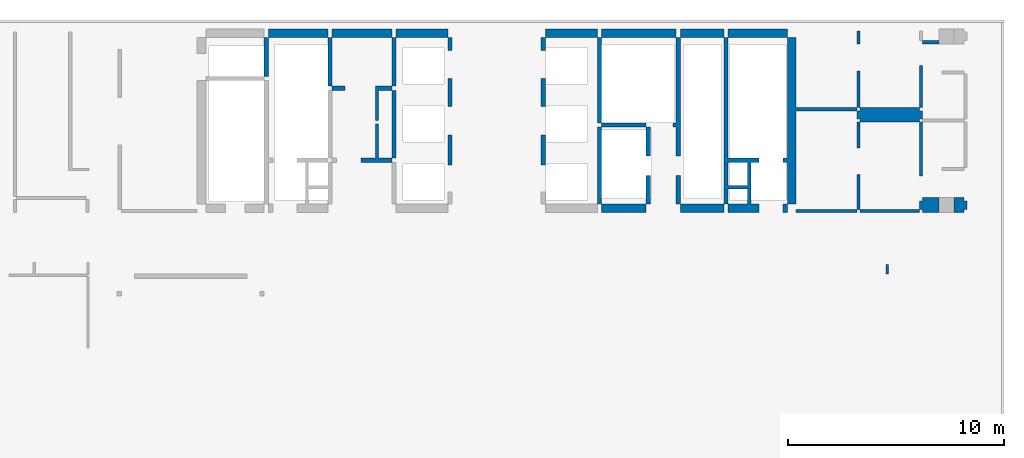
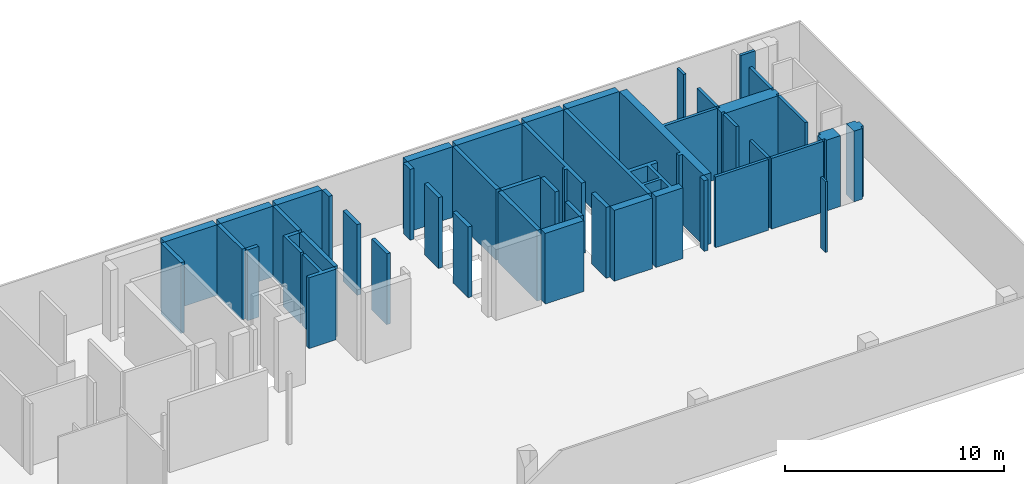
# One storey, part 2 of 4: 45 walls.
"""IFC4 building model written with IfcOpenShell, lengths in millimetres."""

import ifcopenshell
import ifcopenshell.guid

model = None  # the IFC model being written
_history = None  # IfcOwnerHistory: only IFC2X3 demands one
_inside = {}  # id of a spatial element -> (the spatial element, [elements in it])
_under = {}  # id of a project, library or spatial element -> (it, [spatial elements below it])
_declared = {}  # id of a project -> (the project, [libraries it declares])
_typed = {}  # id of a type object -> (the type object, [elements of that type])
_made_of = {}  # id of a material, layer set ... -> (it, [elements and type objects made of it])


def new_model(schema):
    """Start an empty IFC model of exactly this schema.

    Asked for "IFC4X3", IfcOpenShell would pick the latest addendum, in which some entities
    have other attributes; the version numbers below select the first issue.
    IFC2X3 requires an IfcOwnerHistory on every rooted entity: one is made here for all.
    """
    global model, _history
    if schema == "IFC4X3":
        model = ifcopenshell.file(schema_version=(4, 3, 0, 0))
    else:
        model = ifcopenshell.file(schema=schema)
    _inside.clear()
    _under.clear()
    _declared.clear()
    _typed.clear()
    _made_of.clear()
    _history = None
    if model.schema == "IFC2X3":
        org = make("IfcOrganization", Name="unknown")
        user = make(
            "IfcPersonAndOrganization",
            ThePerson=make("IfcPerson", FamilyName="unknown"),
            TheOrganization=org,
        )
        app = make(
            "IfcApplication",
            ApplicationDeveloper=org,
            Version="unknown",
            ApplicationFullName="unknown",
            ApplicationIdentifier="unknown",
        )
        _history = make(
            "IfcOwnerHistory",
            OwningUser=user,
            OwningApplication=app,
            ChangeAction="ADDED",
            CreationDate=0,
        )
    return model


def make(cls, **values):
    """One entity of the class cls with the attributes given. An attribute that is None is left unset."""
    return model.create_entity(
        cls, **{name: value for name, value in values.items() if value is not None}
    )


def rooted(cls, **values):
    """An entity with a GlobalId (a new one), such as an element, a storey or a relation."""
    return make(cls, GlobalId=ifcopenshell.guid.new(), OwnerHistory=_history, **values)


def si_unit(unit_type, name, prefix=None):
    """IfcSIUnit, for example si_unit("LENGTHUNIT", "METRE", prefix="MILLI")."""
    return make("IfcSIUnit", UnitType=unit_type, Prefix=prefix, Name=name)


def assignment(units):
    """IfcUnitAssignment: the units of a project."""
    return None if units is None else make("IfcUnitAssignment", Units=units)


def point(xyz):
    """IfcCartesianPoint."""
    return None if xyz is None else make("IfcCartesianPoint", Coordinates=xyz)


def direction(xyz):
    """IfcDirection."""
    return None if xyz is None else make("IfcDirection", DirectionRatios=xyz)


def frame(location, z_axis=None, x_axis=None):
    """IfcAxis2Placement3D, a coordinate frame: its origin and axes. An axis left out is left unset."""
    return make(
        "IfcAxis2Placement3D",
        Location=point(location),
        Axis=direction(z_axis),
        RefDirection=direction(x_axis),
    )


def origin():
    """The frame at (0, 0, 0) with its axes left unset."""
    return frame((0.0, 0.0, 0.0))


def place(relative_to, where):
    """IfcLocalPlacement: puts the frame where relative to a parent placement (None: the world)."""
    return make(
        "IfcLocalPlacement", PlacementRelTo=relative_to, RelativePlacement=where
    )


def context(
    kind, dimensions, precision=None, world=None, true_north=None, identifier=None
):
    """IfcGeometricRepresentationContext, for example the 3D "Model" context."""
    return make(
        "IfcGeometricRepresentationContext",
        ContextIdentifier=identifier,
        ContextType=kind,
        CoordinateSpaceDimension=dimensions,
        Precision=precision,
        WorldCoordinateSystem=world,
        TrueNorth=true_north,
    )


def project(units=None, contexts=None):
    """IfcProject with its units and contexts."""
    return rooted(
        "IfcProject",
        Name="project",
        RepresentationContexts=contexts,
        UnitsInContext=assignment(units),
    )


def spatial(cls, under=None, at=None, **own):
    """A site, building, storey or space (cls), placed at a placement, below another one or the project."""
    s = rooted(cls, ObjectPlacement=at, **own)
    if under is not None:
        _under.setdefault(under.id(), (under, []))[1].append(s)
    return s


def point_list(points):
    """IfcCartesianPointList2D or 3D."""
    cls = (
        "IfcCartesianPointList2D" if len(points[0]) == 2 else "IfcCartesianPointList3D"
    )
    return make(cls, CoordList=points)


def triangles(points, corners, closed=None, point_numbers=None):
    """IfcTriangulatedFaceSet: each triangle names its three corners, points numbered from 1."""
    return make(
        "IfcTriangulatedFaceSet",
        Coordinates=point_list(points),
        Closed=closed,
        CoordIndex=corners,
        PnIndex=point_numbers,
    )


def shape(context_of_items, identifier, shape_type, items):
    """IfcShapeRepresentation: the items that make up one representation, for example the "Body"."""
    return make(
        "IfcShapeRepresentation",
        ContextOfItems=context_of_items,
        RepresentationIdentifier=identifier,
        RepresentationType=shape_type,
        Items=items,
    )


def made_of(thing, what):
    """Note that an element or type object is made of a material, layer set ...; save() writes the relation."""
    if what is not None:
        _made_of.setdefault(what.id(), (what, []))[1].append(thing)
    return thing


def element(
    cls,
    number,
    at=None,
    inside=None,
    cuts=None,
    type_object=None,
    material=None,
    context=None,
    identifier="Body",
    shape_type=None,
    held_by="IfcProductDefinitionShape",
    body=None,
    shapes=None,
    **own,
):
    """One element of the class cls, such as IfcWall. Its Tag is "e" and its number.

    at: its placement. inside: the storey or other place that contains it. cuts: it is an
    opening in that element (IfcRelVoidsElement). A single representation is given by context,
    identifier, shape_type and body (its items); several are given by shapes. held_by: the class
    of the entity that holds the representations. save() writes the other relations.
    """
    e = rooted(cls, Tag="e%d" % number, ObjectPlacement=at, **own)
    if body is not None:
        shapes = [shape(context, identifier, shape_type, body)]
    if shapes is not None:
        e.Representation = make(held_by, Representations=shapes)
    if inside is not None:
        _inside.setdefault(inside.id(), (inside, []))[1].append(e)
    if cuts is not None:
        rooted(
            "IfcRelVoidsElement", RelatingBuildingElement=cuts, RelatedOpeningElement=e
        )
    if type_object is not None:
        _typed.setdefault(type_object.id(), (type_object, []))[1].append(e)
    return made_of(e, material)


def aggregate(whole, parts):
    """IfcRelAggregates: a whole, such as a stair, and the parts it consists of."""
    return rooted("IfcRelAggregates", RelatingObject=whole, RelatedObjects=parts)


def save(model, path):
    """Write the relations noted so far, then the file.

    IfcRelAggregates (storeys below a building ...), IfcRelContainedInSpatialStructure (elements
    in a storey), IfcRelDefinesByType, IfcRelAssociatesMaterial and IfcRelDeclares: one each for
    every whole, place, type object, material and project.
    """
    for whole, parts in _under.values():
        aggregate(whole, parts)
    for where, things in _inside.values():
        rooted(
            "IfcRelContainedInSpatialStructure",
            RelatedElements=things,
            RelatingStructure=where,
        )
    for kind, things in _typed.values():
        rooted("IfcRelDefinesByType", RelatedObjects=things, RelatingType=kind)
    for what, things in _made_of.values():
        rooted("IfcRelAssociatesMaterial", RelatedObjects=things, RelatingMaterial=what)
    for by, libraries in _declared.values():
        rooted("IfcRelDeclares", RelatingContext=by, RelatedDefinitions=libraries)
    model.write(path)


model = new_model("IFC4")

# Units and contexts
model_context = context("Model", 3, precision=0.001, world=origin())
ifc_project = project(units=[si_unit("LENGTHUNIT", "METRE", prefix="MILLI"), si_unit("AREAUNIT", "SQUARE_METRE"), si_unit("VOLUMEUNIT", "CUBIC_METRE")], contexts=[model_context])

# Site, building, storey
site_placement = place(None, origin())
site = spatial("IfcSite", under=ifc_project, at=site_placement, Name="Site", CompositionType="ELEMENT")
building_placement = place(site_placement, origin())
building = spatial("IfcBuilding", under=site, at=building_placement, Name="INNOCEAN", CompositionType="ELEMENT")
storey_placement = place(building_placement, frame((0.0, 0.0, 59600.0)))
storey = spatial("IfcBuildingStorey", under=building, at=storey_placement, Name="F14", CompositionType="ELEMENT", Elevation=59600.0)

# Walls
wall_1_placement = place(storey_placement, origin())
element("IfcWall", 1, at=wall_1_placement, inside=storey, Name="F14_Walls_F14_022", context=model_context, shape_type="Tessellation", body=[
    triangles([(16226.2, 25025.8, 0.0), (16226.2, 23222.2, 0.0), (16226.2, 23222.2, 3950.0), (16226.2, 25025.8, 3950.0), (16429.3, 25025.8, 0.0), (16429.3, 25025.8, 3950.0), (16429.3, 23222.2, 0.0), (16429.3, 23222.2, 3950.0)], [[1, 2, 3], [1, 3, 4], [5, 1, 4], [5, 4, 6], [7, 5, 6], [7, 6, 8], [2, 7, 8], [2, 8, 3], [1, 5, 7], [1, 7, 2], [6, 4, 8], [8, 4, 3]], closed=True),
])
wall_2_placement = place(storey_placement, origin())
element("IfcWall", 2, at=wall_2_placement, inside=storey, Name="F14_Walls_F14_025", context=model_context, shape_type="Tessellation", body=[
    triangles([(19183.7, 25025.8, 0.0), (19183.7, 25419.5, 0.0), (19183.7, 25419.5, 3950.0), (19183.7, 25025.8, 3950.0), (16429.3, 25025.8, 0.0), (16429.3, 25025.8, 3950.0), (16429.3, 25419.5, 0.0), (16429.3, 25419.5, 3950.0)], [[1, 2, 3], [1, 3, 4], [5, 1, 4], [5, 4, 6], [7, 5, 6], [7, 6, 8], [2, 7, 8], [2, 8, 3], [7, 2, 1], [7, 1, 5], [3, 8, 4], [4, 8, 6]], closed=True),
])
wall_3_placement = place(storey_placement, origin())
element("IfcWall", 3, at=wall_3_placement, inside=storey, Name="F14_Walls_F14_031", context=model_context, shape_type="Tessellation", body=[
    triangles([(31826.2, 20872.5, 0.0), (31826.2, 20872.5, 3950.0), (31826.2, 17316.1, 3950.0), (31826.2, 17316.1, 0.0), (31623.1, 17316.1, 3950.0), (31623.1, 17316.1, 0.0), (31623.1, 20872.5, 3950.0), (31623.1, 20872.5, 0.0)], [[1, 2, 3], [4, 1, 3], [4, 3, 5], [6, 4, 5], [6, 5, 7], [8, 6, 7], [8, 7, 2], [1, 8, 2], [8, 1, 4], [8, 4, 6], [2, 7, 3], [3, 7, 5]], closed=True),
])
wall_4_placement = place(storey_placement, origin())
element("IfcWall", 4, at=wall_4_placement, inside=storey, Name="F14_Walls_F14_033", context=model_context, shape_type="Tessellation", body=[
    triangles([(21366.9, 21024.9, 0.0), (21366.9, 19449.9, 0.0), (21366.9, 19449.9, 3950.0), (21366.9, 21024.9, 3950.0), (21519.3, 21024.9, 0.0), (21519.3, 21024.9, 3950.0), (21519.3, 19449.9, 0.0), (21519.3, 19449.9, 3950.0), (22128.5, 19449.9, 0.0), (22128.5, 19449.9, 3950.0), (22128.5, 19246.7, 0.0), (22128.5, 19246.7, 3950.0), (20694.2, 19246.7, 0.0), (20694.2, 19246.7, 3950.0), (20694.2, 19449.9, 0.0), (20694.2, 19449.9, 3950.0)], [[1, 2, 3], [1, 3, 4], [5, 1, 4], [5, 4, 6], [7, 5, 6], [7, 6, 8], [9, 7, 8], [9, 8, 10], [11, 9, 10], [11, 10, 12], [13, 11, 12], [13, 12, 14], [15, 13, 14], [15, 14, 16], [2, 15, 16], [2, 16, 3], [7, 9, 11], [2, 7, 11], [13, 2, 11], [15, 2, 13], [1, 5, 7], [1, 7, 2], [10, 8, 12], [8, 3, 12], [3, 14, 12], [3, 16, 14], [6, 4, 8], [8, 4, 3]], closed=True),
])
wall_5_placement = place(storey_placement, origin())
element("IfcWall", 5, at=wall_5_placement, inside=storey, Name="F14_Walls_F14_034", context=model_context, shape_type="Tessellation", body=[
    triangles([(24921.0, 19119.7, 0.0), (24921.0, 20516.8, 0.0), (24921.0, 20516.8, 3950.0), (24921.0, 19119.7, 3950.0), (24730.6, 19119.7, 0.0), (24730.6, 19119.7, 3950.0), (24730.6, 19120.0, 0.0), (24730.6, 19120.0, 3950.0), (24730.0, 19120.0, 0.0), (24730.0, 19120.0, 3950.0), (24730.0, 20515.0, 0.0), (24730.0, 20515.0, 3950.0), (24730.6, 20515.0, 0.0), (24730.6, 20515.0, 3950.0), (24730.6, 20516.8, 3950.0), (24730.6, 20516.8, 0.0)], [[1, 2, 3], [1, 3, 4], [5, 1, 4], [5, 4, 6], [7, 5, 6], [7, 6, 8], [9, 7, 8], [9, 8, 10], [11, 9, 10], [11, 10, 12], [13, 11, 12], [13, 12, 14], [13, 14, 15], [16, 13, 15], [2, 16, 15], [2, 15, 3], [7, 1, 5], [13, 2, 1], [13, 1, 7], [11, 7, 9], [11, 13, 7], [16, 2, 13], [4, 8, 6], [3, 14, 4], [4, 14, 8], [8, 12, 10], [14, 12, 8], [3, 15, 14]], closed=True),
])
wall_6_placement = place(storey_placement, origin())
element("IfcWall", 6, at=wall_6_placement, inside=storey, Name="F14_Walls_F14_035", context=model_context, shape_type="Tessellation", body=[
    triangles([(29224.0, 20516.8, 0.0), (29224.0, 20516.8, 3950.0), (29224.0, 20515.0, 3950.0), (29224.0, 20515.0, 0.0), (29225.0, 20515.0, 0.0), (29225.0, 20515.0, 3950.0), (29225.0, 19120.0, 0.0), (29225.0, 19120.0, 3950.0), (29224.0, 19120.0, 0.0), (29224.0, 19120.0, 3950.0), (29224.0, 19119.7, 0.0), (29224.0, 19119.7, 3950.0), (29020.9, 19119.7, 0.0), (29020.9, 19119.7, 3950.0), (29020.9, 19120.0, 0.0), (29020.9, 19120.0, 3950.0), (29020.0, 19120.0, 0.0), (29020.0, 19120.0, 3950.0), (29020.0, 20515.0, 0.0), (29020.0, 20515.0, 3950.0), (29020.9, 20515.0, 0.0), (29020.9, 20515.0, 3950.0), (29020.9, 20516.8, 3950.0), (29020.9, 20516.8, 0.0)], [[1, 2, 3], [4, 1, 3], [5, 4, 3], [5, 3, 6], [7, 5, 6], [7, 6, 8], [9, 7, 8], [9, 8, 10], [11, 9, 10], [11, 10, 12], [13, 11, 12], [13, 12, 14], [15, 13, 14], [15, 14, 16], [17, 15, 16], [17, 16, 18], [19, 17, 18], [19, 18, 20], [21, 19, 20], [21, 20, 22], [21, 22, 23], [24, 21, 23], [1, 24, 23], [1, 23, 2], [15, 9, 11], [15, 11, 13], [4, 5, 7], [4, 7, 9], [4, 9, 15], [21, 4, 15], [19, 15, 17], [19, 21, 15], [24, 1, 4], [24, 4, 21], [10, 16, 12], [12, 16, 14], [6, 3, 8], [8, 3, 10], [10, 3, 16], [3, 22, 16], [16, 20, 18], [22, 20, 16], [2, 23, 3], [3, 23, 22]], closed=True),
])
wall_7_placement = place(storey_placement, origin())
element("IfcWall", 7, at=wall_7_placement, inside=storey, Name="F14_Walls_F14_037", context=model_context, shape_type="Tessellation", body=[
    triangles([(22331.6, 19449.9, 0.0), (22331.6, 22574.4, 0.0), (22331.6, 22574.4, 3950.0), (22331.6, 19449.9, 3950.0), (22128.5, 19449.9, 0.0), (22128.5, 19449.9, 3950.0), (22128.5, 22574.4, 0.0), (22128.5, 22574.4, 3950.0)], [[1, 2, 3], [1, 3, 4], [5, 1, 4], [5, 4, 6], [7, 5, 6], [7, 6, 8], [2, 7, 8], [2, 8, 3], [2, 1, 5], [7, 2, 5], [4, 3, 6], [3, 8, 6]], closed=True),
])
wall_8_placement = place(storey_placement, origin())
element("IfcWall", 8, at=wall_8_placement, inside=storey, Name="F14_Walls_F14_038", context=model_context, shape_type="Tessellation", body=[
    triangles([(22128.5, 22765.0, 0.0), (21366.9, 22765.0, 0.0), (21366.9, 22765.0, 3950.0), (22128.5, 22765.0, 3950.0), (22128.5, 22574.4, 3950.0), (22128.5, 22574.4, 0.0), (21519.3, 22574.4, 0.0), (21519.3, 22574.4, 3950.0), (21519.3, 21177.3, 0.0), (21519.3, 21177.3, 3950.0), (21366.9, 21177.3, 0.0), (21366.9, 21177.3, 3950.0), (21366.9, 22574.4, 0.0), (21366.9, 22574.4, 3950.0)], [[1, 2, 3], [1, 3, 4], [1, 4, 5], [6, 1, 5], [7, 6, 5], [7, 5, 8], [9, 7, 8], [9, 8, 10], [11, 9, 10], [11, 10, 12], [13, 11, 12], [13, 12, 14], [13, 14, 3], [2, 13, 3], [7, 1, 6], [13, 7, 9], [13, 9, 11], [2, 1, 7], [2, 7, 13], [4, 8, 5], [8, 14, 10], [10, 14, 12], [4, 3, 8], [8, 3, 14]], closed=True),
])
wall_9_placement = place(storey_placement, origin())
element("IfcWall", 9, at=wall_9_placement, inside=storey, Name="F14_Walls_F14_039", context=model_context, shape_type="Tessellation", body=[
    triangles([(24730.6, 23120.6, 0.0), (24730.6, 23120.0, 0.0), (24730.6, 23120.0, 3950.0), (24730.6, 23120.6, 3950.0), (24921.0, 23120.6, 0.0), (24921.0, 23120.6, 3950.0), (24921.0, 21825.1, 0.0), (24921.0, 21825.1, 3950.0), (24920.0, 21825.1, 0.0), (24920.0, 21825.1, 3950.0), (24920.0, 21825.0, 0.0), (24920.0, 21825.0, 3950.0), (24730.0, 21825.0, 0.0), (24730.0, 21825.0, 3950.0), (24730.0, 23120.0, 3950.0), (24730.0, 23120.0, 0.0)], [[1, 2, 3], [1, 3, 4], [5, 1, 4], [5, 4, 6], [7, 5, 6], [7, 6, 8], [9, 7, 8], [9, 8, 10], [11, 9, 10], [11, 10, 12], [13, 11, 12], [13, 12, 14], [13, 14, 15], [16, 13, 15], [2, 16, 15], [2, 15, 3], [13, 9, 11], [5, 7, 9], [2, 5, 9], [2, 9, 13], [1, 5, 2], [16, 2, 13], [10, 14, 12], [8, 6, 10], [6, 3, 10], [10, 3, 14], [6, 4, 3], [3, 15, 14]], closed=True),
])
wall_10_placement = place(storey_placement, origin())
element("IfcWall", 10, at=wall_10_placement, inside=storey, Name="F14_Walls_F14_040", context=model_context, shape_type="Tessellation", body=[
    triangles([(29020.9, 23120.6, 0.0), (29020.9, 23120.0, 0.0), (29020.9, 23120.0, 3950.0), (29020.9, 23120.6, 3950.0), (29224.0, 23120.6, 0.0), (29224.0, 23120.6, 3950.0), (29224.0, 23120.0, 0.0), (29224.0, 23120.0, 3950.0), (29225.0, 23120.0, 0.0), (29225.0, 23120.0, 3950.0), (29225.0, 21825.0, 3950.0), (29225.0, 21825.0, 0.0), (29020.0, 21825.0, 0.0), (29020.0, 21825.0, 3950.0), (29020.0, 23120.0, 3950.0), (29020.0, 23120.0, 0.0)], [[1, 2, 3], [1, 3, 4], [5, 1, 4], [5, 4, 6], [7, 5, 6], [7, 6, 8], [9, 7, 8], [9, 8, 10], [9, 10, 11], [12, 9, 11], [13, 12, 11], [13, 11, 14], [13, 14, 15], [16, 13, 15], [2, 16, 15], [2, 15, 3], [7, 9, 12], [7, 12, 13], [2, 7, 13], [1, 5, 7], [1, 7, 2], [16, 2, 13], [10, 8, 11], [11, 8, 14], [8, 3, 14], [6, 4, 8], [8, 4, 3], [3, 15, 14]], closed=True),
])
wall_11_placement = place(storey_placement, origin())
element("IfcWall", 11, at=wall_11_placement, inside=storey, Name="F14_Walls_F14_041", context=model_context, shape_type="Tessellation", body=[
    triangles([(19970.7, 22765.0, 0.0), (19970.7, 22765.0, 3950.0), (19970.7, 22574.4, 3950.0), (19970.7, 22574.4, 0.0), (19374.1, 22574.4, 0.0), (19374.1, 22574.4, 3950.0), (19374.1, 22765.0, 3950.0), (19374.1, 22765.0, 0.0)], [[1, 2, 3], [4, 1, 3], [5, 4, 3], [5, 3, 6], [5, 6, 7], [8, 5, 7], [1, 8, 7], [1, 7, 2], [8, 1, 4], [8, 4, 5], [2, 7, 3], [3, 7, 6]], closed=True),
])
wall_12_placement = place(storey_placement, origin())
element("IfcWall", 12, at=wall_12_placement, inside=storey, Name="F14_Walls_F14_042", context=model_context, shape_type="Tessellation", body=[
    triangles([(19374.1, 22765.0, 0.0), (19374.1, 25025.8, 0.0), (19374.1, 25025.8, 3950.0), (19374.1, 22765.0, 3950.0), (19183.7, 22765.0, 0.0), (19183.7, 22765.0, 3950.0), (19183.7, 25025.8, 0.0), (19183.7, 25025.8, 3950.0)], [[1, 2, 3], [1, 3, 4], [5, 1, 4], [5, 4, 6], [7, 5, 6], [7, 6, 8], [2, 7, 8], [2, 8, 3], [7, 2, 1], [7, 1, 5], [3, 8, 4], [4, 8, 6]], closed=True),
])
wall_13_placement = place(storey_placement, origin())
element("IfcWall", 13, at=wall_13_placement, inside=storey, Name="F14_Walls_F14_043", context=model_context, shape_type="Tessellation", body=[
    triangles([(22331.6, 22765.0, 0.0), (22331.6, 25025.8, 0.0), (22331.6, 25025.8, 3950.0), (22331.6, 22765.0, 3950.0), (22128.5, 22765.0, 0.0), (22128.5, 22765.0, 3950.0), (22128.5, 25025.8, 0.0), (22128.5, 25025.8, 3950.0)], [[1, 2, 3], [1, 3, 4], [5, 1, 4], [5, 4, 6], [7, 5, 6], [7, 6, 8], [2, 7, 8], [2, 8, 3], [7, 2, 1], [7, 1, 5], [3, 8, 4], [4, 8, 6]], closed=True),
])
wall_14_placement = place(storey_placement, origin())
element("IfcWall", 14, at=wall_14_placement, inside=storey, Name="F14_Walls_F14_044", context=model_context, shape_type="Tessellation", body=[
    triangles([(24921.0, 24416.1, 0.0), (24921.0, 25025.8, 0.0), (24921.0, 25025.8, 3950.0), (24921.0, 24416.1, 3950.0), (24730.6, 24416.1, 0.0), (24730.6, 24416.1, 3950.0), (24730.6, 25025.8, 0.0), (24730.6, 25025.8, 3950.0)], [[1, 2, 3], [1, 3, 4], [5, 1, 4], [5, 4, 6], [7, 5, 6], [7, 6, 8], [2, 7, 8], [2, 8, 3], [7, 2, 1], [7, 1, 5], [3, 8, 4], [4, 8, 6]], closed=True),
])
wall_15_placement = place(storey_placement, origin())
element("IfcWall", 15, at=wall_15_placement, inside=storey, Name="F14_Walls_F14_045", context=model_context, shape_type="Tessellation", body=[
    triangles([(29020.9, 24416.1, 0.0), (29224.0, 24416.1, 0.0), (29224.0, 24416.1, 3950.0), (29020.9, 24416.1, 3950.0), (29020.9, 25025.8, 0.0), (29020.9, 25025.8, 3950.0), (29224.0, 25025.8, 0.0), (29224.0, 25025.8, 3950.0)], [[1, 2, 3], [1, 3, 4], [5, 1, 4], [5, 4, 6], [7, 5, 6], [7, 6, 8], [2, 7, 8], [2, 8, 3], [5, 2, 1], [5, 7, 2], [3, 6, 4], [8, 6, 3]], closed=True),
])
wall_16_placement = place(storey_placement, origin())
element("IfcWall", 16, at=wall_16_placement, inside=storey, Name="F14_Walls_F14_046", context=model_context, shape_type="Tessellation", body=[
    triangles([(19374.1, 25025.8, 0.0), (22128.5, 25025.8, 0.0), (22128.5, 25025.8, 3950.0), (19374.1, 25025.8, 3950.0), (19374.1, 25419.5, 0.0), (19374.1, 25419.5, 3950.0), (22128.5, 25419.5, 0.0), (22128.5, 25419.5, 3950.0)], [[1, 2, 3], [1, 3, 4], [5, 1, 4], [5, 4, 6], [7, 5, 6], [7, 6, 8], [2, 7, 8], [2, 8, 3], [5, 2, 1], [5, 7, 2], [3, 6, 4], [8, 6, 3]], closed=True),
])
wall_17_placement = place(storey_placement, origin())
element("IfcWall", 17, at=wall_17_placement, inside=storey, Name="F14_Walls_F14_047", context=model_context, shape_type="Tessellation", body=[
    triangles([(24730.6, 25025.8, 0.0), (24730.6, 25419.5, 0.0), (24730.6, 25419.5, 3950.0), (24730.6, 25025.8, 3950.0), (22331.6, 25025.8, 0.0), (22331.6, 25025.8, 3950.0), (22331.6, 25419.5, 0.0), (22331.6, 25419.5, 3950.0)], [[1, 2, 3], [1, 3, 4], [5, 1, 4], [5, 4, 6], [7, 5, 6], [7, 6, 8], [2, 7, 8], [2, 8, 3], [7, 2, 1], [7, 1, 5], [3, 8, 4], [4, 8, 6]], closed=True),
])
wall_18_placement = place(storey_placement, origin())
element("IfcWall", 18, at=wall_18_placement, inside=storey, Name="F14_Walls_F14_048", context=model_context, shape_type="Tessellation", body=[
    triangles([(31623.1, 25025.8, 0.0), (31623.1, 25419.5, 0.0), (31623.1, 25419.5, 3950.0), (31623.1, 25025.8, 3950.0), (29224.0, 25025.8, 0.0), (29224.0, 25025.8, 3950.0), (29224.0, 25419.5, 0.0), (29224.0, 25419.5, 3950.0)], [[1, 2, 3], [1, 3, 4], [5, 1, 4], [5, 4, 6], [7, 5, 6], [7, 6, 8], [2, 7, 8], [2, 8, 3], [7, 2, 1], [7, 1, 5], [3, 8, 4], [4, 8, 6]], closed=True),
])
wall_19_placement = place(storey_placement, origin())
element("IfcWall", 19, at=wall_19_placement, inside=storey, Name="F14_Walls_F14_049", context=model_context, shape_type="Tessellation", body=[
    triangles([(43618.2, 16922.4, 0.0), (43618.2, 17074.8, 0.0), (43618.2, 17074.8, 3950.0), (43618.2, 16922.4, 3950.0), (40813.0, 16922.4, 0.0), (40813.0, 16922.4, 3950.0), (40813.0, 17074.8, 0.0), (40813.0, 17074.8, 3950.0)], [[1, 2, 3], [1, 3, 4], [5, 1, 4], [5, 4, 6], [7, 5, 6], [7, 6, 8], [2, 7, 8], [2, 8, 3], [5, 2, 1], [7, 2, 5], [3, 6, 4], [3, 8, 6]], closed=True),
])
wall_20_placement = place(storey_placement, origin())
element("IfcWall", 20, at=wall_20_placement, inside=storey, Name="F14_Walls_F14_050", context=model_context, shape_type="Tessellation", body=[
    triangles([(37665.0, 16922.4, 0.0), (37665.0, 16922.4, 3950.0), (37665.0, 17316.1, 3950.0), (37665.0, 17316.1, 0.0), (39099.4, 16922.4, 0.0), (39099.4, 16922.4, 3950.0), (39099.4, 17316.1, 0.0), (39099.4, 17316.1, 3950.0), (38720.0, 17316.1, 0.0), (38720.0, 17316.1, 3950.0), (38720.0, 19245.0, 0.0), (38720.0, 19245.0, 3950.0), (39100.0, 19245.0, 0.0), (39100.0, 19245.0, 3950.0), (39100.0, 19450.0, 0.0), (39100.0, 19450.0, 3950.0), (37665.0, 19450.0, 0.0), (37665.0, 19450.0, 3950.0), (37665.0, 25025.8, 0.0), (37665.0, 25025.8, 3950.0), (37474.6, 25025.8, 0.0), (37474.6, 25025.8, 3950.0), (37474.6, 19449.9, 0.0), (37474.6, 19449.9, 3950.0), (37474.6, 17316.1, 0.0), (37474.6, 17316.1, 3950.0), (37665.0, 18014.7, 0.0), (37665.0, 18014.7, 3950.0), (38565.0, 18014.7, 0.0), (38565.0, 18014.7, 3950.0), (38565.0, 17316.1, 0.0), (38565.0, 17316.1, 3950.0), (38565.0, 19245.0, 0.0), (38565.0, 18167.1, 0.0), (38565.0, 18167.1, 3950.0), (38565.0, 19245.0, 3950.0), (37665.0, 18167.1, 0.0), (37665.0, 18167.1, 3950.0), (37665.0, 19245.0, 0.0), (37665.0, 19245.0, 3950.0)], [[1, 2, 3], [4, 1, 3], [1, 5, 6], [1, 6, 2], [7, 8, 6], [5, 7, 6], [7, 9, 10], [7, 10, 8], [9, 11, 12], [9, 12, 10], [13, 14, 12], [11, 13, 12], [13, 15, 16], [13, 16, 14], [15, 17, 18], [15, 18, 16], [17, 19, 20], [17, 20, 18], [19, 21, 22], [19, 22, 20], [21, 23, 24], [21, 24, 22], [23, 25, 26], [23, 26, 24], [25, 4, 3], [25, 3, 26], [4, 27, 28], [4, 28, 3], [27, 29, 30], [27, 30, 28], [29, 31, 32], [29, 32, 30], [31, 4, 3], [31, 3, 32], [33, 34, 35], [33, 35, 36], [34, 37, 38], [34, 38, 35], [37, 39, 40], [37, 40, 38], [39, 33, 36], [39, 36, 40], [9, 7, 5], [31, 9, 5], [1, 31, 5], [29, 9, 31], [4, 31, 1], [27, 4, 25], [37, 29, 27], [37, 34, 29], [37, 27, 25], [11, 15, 13], [33, 11, 34], [33, 15, 11], [17, 33, 39], [17, 15, 33], [23, 39, 37], [23, 17, 39], [23, 37, 25], [21, 19, 17], [21, 17, 23], [11, 9, 29], [11, 29, 34], [8, 10, 6], [10, 32, 6], [32, 2, 6], [10, 30, 32], [32, 3, 2], [3, 28, 26], [30, 38, 28], [35, 38, 30], [28, 38, 26], [16, 12, 14], [12, 36, 35], [16, 36, 12], [36, 18, 40], [16, 18, 36], [40, 24, 38], [18, 24, 40], [38, 24, 26], [20, 22, 18], [18, 22, 24], [10, 12, 30], [30, 12, 35]], closed=True),
])
wall_21_placement = place(storey_placement, origin())
element("IfcWall", 21, at=wall_21_placement, inside=storey, Name="F14_Walls_F14_051", context=model_context, shape_type="Tessellation", body=[
    triangles([(33869.8, 17316.1, 0.0), (33869.8, 17316.1, 3950.0), (33869.8, 16922.4, 3950.0), (33869.8, 16922.4, 0.0), (31826.2, 16922.4, 0.0), (31826.2, 16922.4, 3950.0), (31826.2, 17316.1, 3950.0), (31826.2, 17316.1, 0.0)], [[1, 2, 3], [4, 1, 3], [5, 4, 3], [5, 3, 6], [5, 6, 7], [8, 5, 7], [1, 8, 7], [1, 7, 2], [8, 1, 4], [8, 4, 5], [2, 7, 3], [3, 7, 6]], closed=True),
])
wall_22_placement = place(storey_placement, origin())
element("IfcWall", 22, at=wall_22_placement, inside=storey, Name="F14_Walls_F14_052", context=model_context, shape_type="Tessellation", body=[
    triangles([(40419.5, 17316.1, 0.0), (40419.5, 17316.1, 3950.0), (40419.5, 16922.4, 3950.0), (40419.5, 16922.4, 0.0), (40216.4, 16922.4, 0.0), (40216.4, 16922.4, 3950.0), (40216.4, 17316.1, 3950.0), (40216.4, 17316.1, 0.0)], [[1, 2, 3], [4, 1, 3], [5, 4, 3], [5, 3, 6], [5, 6, 7], [8, 5, 7], [1, 8, 7], [1, 7, 2], [8, 1, 4], [8, 4, 5], [2, 7, 3], [3, 7, 6]], closed=True),
])
wall_23_placement = place(storey_placement, origin())
element("IfcWall", 23, at=wall_23_placement, inside=storey, Name="F14_Walls_F14_053", context=model_context, shape_type="Tessellation", body=[
    triangles([(37474.6, 17316.1, 0.0), (37474.6, 17316.1, 3950.0), (37474.6, 16922.4, 3950.0), (37474.6, 16922.4, 0.0), (35469.1, 16922.4, 0.0), (35469.1, 16922.4, 3950.0), (35469.1, 17316.1, 3950.0), (35469.1, 17316.1, 0.0)], [[1, 2, 3], [4, 1, 3], [5, 4, 3], [5, 3, 6], [5, 6, 7], [8, 5, 7], [1, 8, 7], [1, 7, 2], [8, 1, 4], [8, 4, 5], [2, 7, 3], [3, 7, 6]], closed=True),
])
wall_24_placement = place(storey_placement, origin())
element("IfcWall", 24, at=wall_24_placement, inside=storey, Name="F14_Walls_F14_054", context=model_context, shape_type="Tessellation", body=[
    triangles([(34072.9, 17316.1, 0.0), (34072.9, 18649.7, 0.0), (34072.9, 18649.7, 3950.0), (34072.9, 17316.1, 3950.0), (33869.8, 17316.1, 0.0), (33869.8, 17316.1, 3950.0), (33869.8, 18649.7, 0.0), (33869.8, 18649.7, 3950.0)], [[1, 2, 3], [1, 3, 4], [5, 1, 4], [5, 4, 6], [7, 5, 6], [7, 6, 8], [2, 7, 8], [2, 8, 3], [7, 2, 1], [7, 1, 5], [3, 8, 4], [4, 8, 6]], closed=True),
])
wall_25_placement = place(storey_placement, origin())
element("IfcWall", 25, at=wall_25_placement, inside=storey, Name="F14_Walls_F14_055", context=model_context, shape_type="Tessellation", body=[
    triangles([(35469.1, 17316.1, 0.0), (35469.1, 18649.7, 0.0), (35469.1, 18649.7, 3950.0), (35469.1, 17316.1, 3950.0), (35266.0, 17316.1, 0.0), (35266.0, 17316.1, 3950.0), (35266.0, 18649.7, 0.0), (35266.0, 18649.7, 3950.0)], [[1, 2, 3], [1, 3, 4], [5, 1, 4], [5, 4, 6], [7, 5, 6], [7, 6, 8], [2, 7, 8], [2, 8, 3], [7, 2, 1], [7, 1, 5], [3, 8, 4], [4, 8, 6]], closed=True),
])
wall_26_placement = place(storey_placement, origin())
element("IfcWall", 26, at=wall_26_placement, inside=storey, Name="F14_Walls_F14_056", context=model_context, shape_type="Tessellation", body=[
    triangles([(40419.5, 25025.8, 0.0), (40419.5, 19450.0, 0.0), (40419.5, 19450.0, 3950.0), (40419.5, 25025.8, 3950.0), (40813.0, 25025.8, 0.0), (40813.0, 25025.8, 3950.0), (40813.0, 21774.3, 0.0), (40813.0, 21774.3, 3950.0), (43618.2, 21774.3, 0.0), (43618.2, 21774.3, 3950.0), (43618.2, 21621.8, 0.0), (43618.2, 21621.8, 3950.0), (40813.0, 21621.8, 0.0), (40813.0, 21621.8, 3950.0), (40813.0, 19449.9, 0.0), (40813.0, 19449.9, 3950.0), (40813.0, 17316.1, 0.0), (40813.0, 17316.1, 3950.0), (40419.5, 17316.1, 0.0), (40419.5, 17316.1, 3950.0), (40419.5, 19245.0, 0.0), (40419.5, 19245.0, 3950.0), (40215.0, 19245.0, 3950.0), (40215.0, 19245.0, 0.0), (40215.0, 19450.0, 0.0), (40215.0, 19450.0, 3950.0)], [[1, 2, 3], [1, 3, 4], [5, 1, 4], [5, 4, 6], [7, 5, 6], [7, 6, 8], [9, 7, 8], [9, 8, 10], [11, 9, 10], [11, 10, 12], [13, 11, 12], [13, 12, 14], [15, 13, 14], [15, 14, 16], [17, 15, 16], [17, 16, 18], [19, 17, 18], [19, 18, 20], [21, 19, 20], [21, 20, 22], [21, 22, 23], [24, 21, 23], [25, 24, 23], [25, 23, 26], [25, 26, 3], [2, 25, 3], [21, 15, 17], [21, 17, 19], [2, 21, 24], [2, 15, 21], [25, 2, 24], [13, 15, 2], [7, 9, 11], [7, 11, 13], [1, 5, 7], [2, 1, 7], [2, 7, 13], [16, 22, 18], [18, 22, 20], [22, 3, 23], [16, 3, 22], [3, 26, 23], [16, 14, 3], [10, 8, 12], [12, 8, 14], [6, 4, 8], [4, 3, 8], [8, 3, 14]], closed=True),
])
wall_27_placement = place(storey_placement, origin())
element("IfcWall", 27, at=wall_27_placement, inside=storey, Name="F14_Walls_F14_057", context=model_context, shape_type="Tessellation", body=[
    triangles([(34072.9, 19551.5, 0.0), (34072.9, 20872.5, 0.0), (34072.9, 20872.5, 3950.0), (34072.9, 19551.5, 3950.0), (33869.8, 19551.5, 0.0), (33869.8, 19551.5, 3950.0), (33869.8, 20872.5, 0.0), (33869.8, 20872.5, 3950.0)], [[1, 2, 3], [1, 3, 4], [5, 1, 4], [5, 4, 6], [7, 5, 6], [7, 6, 8], [2, 7, 8], [2, 8, 3], [7, 2, 1], [7, 1, 5], [3, 8, 4], [4, 8, 6]], closed=True),
])
wall_28_placement = place(storey_placement, origin())
element("IfcWall", 28, at=wall_28_placement, inside=storey, Name="F14_Walls_F14_058", context=model_context, shape_type="Tessellation", body=[
    triangles([(35126.4, 21075.7, 0.0), (35126.4, 20872.5, 0.0), (35126.4, 20872.5, 3950.0), (35126.4, 21075.7, 3950.0), (35266.0, 21075.7, 0.0), (35266.0, 21075.7, 3950.0), (35266.0, 25025.8, 3950.0), (35266.0, 25025.8, 0.0), (35469.1, 25025.8, 0.0), (35469.1, 25025.8, 3950.0), (35469.1, 21075.7, 3950.0), (35469.1, 21075.7, 0.0), (35469.1, 20872.5, 0.0), (35469.1, 20872.5, 3950.0), (35469.1, 19551.5, 0.0), (35469.1, 19551.5, 3950.0), (35266.0, 19551.5, 0.0), (35266.0, 19551.5, 3950.0), (35266.0, 20872.5, 0.0), (35266.0, 20872.5, 3950.0)], [[1, 2, 3], [1, 3, 4], [5, 1, 4], [5, 4, 6], [7, 5, 6], [8, 5, 7], [9, 8, 7], [9, 7, 10], [11, 9, 10], [12, 9, 11], [13, 12, 11], [13, 11, 14], [15, 13, 14], [15, 14, 16], [17, 15, 16], [17, 16, 18], [19, 17, 18], [19, 18, 20], [2, 19, 20], [2, 20, 3], [19, 13, 15], [19, 15, 17], [12, 13, 19], [5, 12, 19], [1, 19, 2], [1, 5, 19], [8, 9, 12], [8, 12, 5], [14, 20, 16], [16, 20, 18], [14, 11, 20], [11, 6, 20], [20, 4, 3], [6, 4, 20], [10, 7, 11], [11, 7, 6]], closed=True),
])
wall_29_placement = place(storey_placement, origin())
element("IfcWall", 29, at=wall_29_placement, inside=storey, Name="F14_Walls_F14_059", context=model_context, shape_type="Tessellation", body=[
    triangles([(43770.5, 19919.9, 0.0), (43770.5, 21101.1, 0.0), (43770.5, 21101.1, 3950.0), (43770.5, 19919.9, 3950.0), (43618.2, 19919.9, 0.0), (43618.2, 19919.9, 3950.0), (43618.2, 21101.1, 0.0), (43618.2, 21101.1, 3950.0)], [[1, 2, 3], [1, 3, 4], [5, 1, 4], [5, 4, 6], [7, 5, 6], [7, 6, 8], [2, 7, 8], [2, 8, 3], [7, 2, 1], [7, 1, 5], [3, 8, 4], [4, 8, 6]], closed=True),
])
wall_30_placement = place(storey_placement, origin())
element("IfcWall", 30, at=wall_30_placement, inside=storey, Name="F14_Walls_F14_060", context=model_context, shape_type="Tessellation", body=[
    triangles([(33869.8, 20872.5, 0.0), (33869.8, 21075.7, 0.0), (33869.8, 21075.7, 3950.0), (33869.8, 20872.5, 3950.0), (31826.2, 20872.5, 0.0), (31826.2, 20872.5, 3950.0), (31826.2, 21075.7, 0.0), (31826.2, 21075.7, 3950.0)], [[1, 2, 3], [1, 3, 4], [5, 1, 4], [5, 4, 6], [7, 5, 6], [7, 6, 8], [2, 7, 8], [2, 8, 3], [7, 2, 1], [7, 1, 5], [3, 8, 4], [4, 8, 6]], closed=True),
])
wall_31_placement = place(storey_placement, origin())
element("IfcWall", 31, at=wall_31_placement, inside=storey, Name="F14_Walls_F14_061", context=model_context, shape_type="Tessellation", body=[
    triangles([(43770.5, 21774.3, 0.0), (43770.5, 23476.2, 0.0), (43770.5, 23476.2, 3950.0), (43770.5, 21774.3, 3950.0), (43618.2, 21774.3, 0.0), (43618.2, 21774.3, 3950.0), (43618.2, 23476.2, 0.0), (43618.2, 23476.2, 3950.0)], [[1, 2, 3], [1, 3, 4], [5, 1, 4], [5, 4, 6], [7, 5, 6], [7, 6, 8], [2, 7, 8], [2, 8, 3], [7, 2, 1], [7, 1, 5], [3, 8, 4], [4, 8, 6]], closed=True),
])
wall_32_placement = place(storey_placement, origin())
element("IfcWall", 32, at=wall_32_placement, inside=storey, Name="F14_Walls_F14_062", context=model_context, shape_type="Tessellation", body=[
    triangles([(31826.2, 21075.7, 0.0), (31826.2, 21075.7, 3950.0), (31623.1, 21075.7, 3950.0), (31623.1, 21075.7, 0.0), (31623.1, 25025.8, 3950.0), (31623.1, 25025.8, 0.0), (31826.2, 25025.8, 3950.0), (31826.2, 25025.8, 0.0)], [[1, 2, 3], [4, 1, 3], [5, 4, 3], [6, 4, 5], [6, 5, 7], [8, 6, 7], [2, 8, 7], [1, 8, 2], [8, 1, 4], [6, 8, 4], [2, 7, 3], [7, 5, 3]], closed=True),
])
wall_33_placement = place(storey_placement, origin())
element("IfcWall", 33, at=wall_33_placement, inside=storey, Name="F14_Walls_F14_063", context=model_context, shape_type="Tessellation", body=[
    triangles([(43620.0, 25320.0, 0.0), (43620.0, 25320.0, 3950.0), (43770.0, 25320.0, 3950.0), (43770.0, 25320.0, 0.0), (43770.0, 25317.9, 0.0), (43770.0, 25317.9, 3950.0), (43770.5, 25317.9, 0.0), (43770.5, 25317.9, 3950.0), (43770.5, 24721.0, 0.0), (43770.5, 24721.0, 3950.0), (43770.0, 24721.0, 0.0), (43770.0, 24721.0, 3950.0), (43770.0, 24720.0, 0.0), (43770.0, 24720.0, 3950.0), (43620.0, 24720.0, 3950.0), (43620.0, 24720.0, 0.0), (43620.0, 24721.0, 0.0), (43620.0, 24721.0, 3950.0), (43618.2, 24721.0, 3950.0), (43618.2, 24721.0, 0.0), (43618.2, 25317.9, 0.0), (43618.2, 25317.9, 3950.0), (43620.0, 25317.9, 3950.0), (43620.0, 25317.9, 0.0)], [[1, 2, 3], [4, 1, 3], [5, 4, 3], [5, 3, 6], [7, 5, 6], [7, 6, 8], [9, 7, 8], [9, 8, 10], [11, 9, 10], [11, 10, 12], [13, 11, 12], [13, 12, 14], [13, 14, 15], [16, 13, 15], [17, 16, 15], [17, 15, 18], [17, 18, 19], [20, 17, 19], [21, 20, 19], [21, 19, 22], [21, 22, 23], [24, 21, 23], [1, 24, 23], [1, 23, 2], [17, 11, 13], [17, 13, 16], [7, 9, 11], [5, 7, 11], [5, 11, 17], [24, 5, 17], [21, 17, 20], [21, 24, 17], [1, 4, 5], [1, 5, 24], [12, 18, 14], [14, 18, 15], [10, 8, 12], [8, 6, 12], [12, 6, 18], [6, 23, 18], [18, 22, 19], [23, 22, 18], [3, 2, 6], [6, 2, 23]], closed=True),
])
wall_34_placement = place(storey_placement, origin())
element("IfcWall", 34, at=wall_34_placement, inside=storey, Name="F14_Walls_F14_064", context=model_context, shape_type="Tessellation", body=[
    triangles([(35266.0, 25025.8, 0.0), (35266.0, 25419.5, 0.0), (35266.0, 25419.5, 3950.0), (35266.0, 25025.8, 3950.0), (31826.2, 25025.8, 0.0), (31826.2, 25025.8, 3950.0), (31826.2, 25419.5, 0.0), (31826.2, 25419.5, 3950.0)], [[1, 2, 3], [1, 3, 4], [5, 1, 4], [5, 4, 6], [7, 5, 6], [7, 6, 8], [2, 7, 8], [2, 8, 3], [7, 2, 1], [7, 1, 5], [3, 8, 4], [4, 8, 6]], closed=True),
])
wall_35_placement = place(storey_placement, origin())
element("IfcWall", 35, at=wall_35_placement, inside=storey, Name="F14_Walls_F14_065", context=model_context, shape_type="Tessellation", body=[
    triangles([(37474.6, 25025.8, 0.0), (37474.6, 25419.5, 0.0), (37474.6, 25419.5, 3950.0), (37474.6, 25025.8, 3950.0), (35469.1, 25025.8, 0.0), (35469.1, 25025.8, 3950.0), (35469.1, 25419.5, 0.0), (35469.1, 25419.5, 3950.0)], [[1, 2, 3], [1, 3, 4], [5, 1, 4], [5, 4, 6], [7, 5, 6], [7, 6, 8], [2, 7, 8], [2, 8, 3], [7, 2, 1], [7, 1, 5], [3, 8, 4], [4, 8, 6]], closed=True),
])
wall_36_placement = place(storey_placement, origin())
element("IfcWall", 36, at=wall_36_placement, inside=storey, Name="F14_Walls_F14_066", context=model_context, shape_type="Tessellation", body=[
    triangles([(40419.5, 25025.8, 0.0), (40419.5, 25419.5, 0.0), (40419.5, 25419.5, 3950.0), (40419.5, 25025.8, 3950.0), (37665.0, 25025.8, 0.0), (37665.0, 25025.8, 3950.0), (37665.0, 25419.5, 0.0), (37665.0, 25419.5, 3950.0)], [[1, 2, 3], [1, 3, 4], [5, 1, 4], [5, 4, 6], [7, 5, 6], [7, 6, 8], [2, 7, 8], [2, 8, 3], [7, 2, 1], [7, 1, 5], [3, 8, 4], [4, 8, 6]], closed=True),
])
wall_37_placement = place(storey_placement, origin())
element("IfcWall", 37, at=wall_37_placement, inside=storey, Name="F14_Walls_F14_067", context=model_context, shape_type="Tessellation", body=[
    triangles([(45077.9, 14077.3, 0.0), (45077.9, 14521.8, 0.0), (45077.9, 14521.8, 3950.0), (45077.9, 14077.3, 3950.0), (44976.3, 14077.3, 0.0), (44976.3, 14077.3, 3950.0), (44976.3, 14521.8, 0.0), (44976.3, 14521.8, 3950.0)], [[1, 2, 3], [1, 3, 4], [5, 1, 4], [5, 4, 6], [7, 5, 6], [7, 6, 8], [2, 7, 8], [2, 8, 3], [7, 2, 1], [7, 1, 5], [3, 8, 4], [4, 8, 6]], closed=True),
])
wall_38_placement = place(storey_placement, origin())
element("IfcWall", 38, at=wall_38_placement, inside=storey, Name="F14_Walls_F14_068", context=model_context, shape_type="Tessellation", body=[
    triangles([(46512.2, 16922.4, 0.0), (46512.2, 17074.8, 0.0), (46512.2, 17074.8, 3950.0), (46512.2, 16922.4, 3950.0), (43770.5, 16922.4, 0.0), (43770.5, 16922.4, 3950.0), (43770.5, 17074.8, 0.0), (43770.5, 17074.8, 3950.0)], [[1, 2, 3], [1, 3, 4], [5, 1, 4], [5, 4, 6], [7, 5, 6], [7, 6, 8], [2, 7, 8], [2, 8, 3], [7, 2, 1], [7, 1, 5], [3, 8, 4], [4, 8, 6]], closed=True),
])
wall_39_placement = place(storey_placement, origin())
element("IfcWall", 39, at=wall_39_placement, inside=storey, Name="F14_Walls_F14_069", context=model_context, shape_type="Tessellation", body=[
    triangles([(46512.2, 17468.5, 0.0), (46512.2, 17074.8, 0.0), (46512.2, 17074.8, 3950.0), (46512.2, 17468.5, 3950.0), (46664.5, 17468.5, 0.0), (46664.5, 17468.5, 3950.0), (46664.5, 17620.9, 0.0), (46664.5, 17620.9, 3950.0), (47413.4, 17620.9, 0.0), (47413.4, 17620.9, 3950.0), (47413.4, 17468.5, 0.0), (47413.4, 17468.5, 3950.0), (47413.4, 17074.8, 0.0), (47413.4, 17074.8, 3950.0), (47413.4, 16922.4, 0.0), (47413.4, 16922.4, 3950.0), (46664.5, 16922.4, 0.0), (46664.5, 16922.4, 3950.0), (46664.5, 17074.8, 0.0), (46664.5, 17074.8, 3950.0)], [[1, 2, 3], [1, 3, 4], [5, 1, 4], [5, 4, 6], [7, 5, 6], [7, 6, 8], [9, 7, 8], [9, 8, 10], [11, 9, 10], [11, 10, 12], [13, 11, 12], [13, 12, 14], [15, 13, 14], [15, 14, 16], [17, 15, 16], [17, 16, 18], [19, 17, 18], [19, 18, 20], [2, 19, 20], [2, 20, 3], [17, 13, 15], [19, 13, 17], [5, 11, 13], [5, 19, 2], [5, 13, 19], [1, 5, 2], [7, 9, 11], [7, 11, 5], [14, 18, 16], [14, 20, 18], [12, 6, 14], [20, 6, 3], [14, 6, 20], [6, 4, 3], [10, 8, 12], [12, 8, 6]], closed=True),
])
wall_40_placement = place(storey_placement, origin())
element("IfcWall", 40, at=wall_40_placement, inside=storey, Name="F14_Walls_F14_070", context=model_context, shape_type="Tessellation", body=[
    triangles([(48111.6, 17620.9, 0.0), (48111.6, 17468.5, 0.0), (48111.6, 17468.5, 3950.0), (48111.6, 17620.9, 3950.0), (48568.5, 17620.9, 0.0), (48568.5, 17620.9, 3950.0), (48568.5, 17468.5, 0.0), (48568.5, 17468.5, 3950.0), (48708.1, 17468.5, 0.0), (48708.1, 17468.5, 3950.0), (48708.1, 17074.8, 0.0), (48708.1, 17074.8, 3950.0), (48568.5, 17074.8, 0.0), (48568.5, 17074.8, 3950.0), (48568.5, 16922.4, 0.0), (48568.5, 16922.4, 3950.0), (48111.6, 16922.4, 0.0), (48111.6, 16922.4, 3950.0), (48111.6, 17074.8, 0.0), (48111.6, 17074.8, 3950.0)], [[1, 2, 3], [1, 3, 4], [5, 1, 4], [5, 4, 6], [7, 5, 6], [7, 6, 8], [9, 7, 8], [9, 8, 10], [11, 9, 10], [11, 10, 12], [13, 11, 12], [13, 12, 14], [15, 13, 14], [15, 14, 16], [17, 15, 16], [17, 16, 18], [19, 17, 18], [19, 18, 20], [2, 19, 20], [2, 20, 3], [7, 9, 11], [7, 11, 13], [19, 13, 15], [19, 15, 17], [19, 7, 13], [2, 7, 19], [1, 5, 7], [1, 7, 2], [10, 8, 12], [12, 8, 14], [14, 20, 16], [16, 20, 18], [8, 20, 14], [8, 3, 20], [6, 4, 8], [8, 4, 3]], closed=True),
])
wall_41_placement = place(storey_placement, origin())
element("IfcWall", 41, at=wall_41_placement, inside=storey, Name="F14_Walls_F14_071", context=model_context, shape_type="Tessellation", body=[
    triangles([(43770.5, 17074.8, 0.0), (43770.5, 18675.1, 0.0), (43770.5, 18675.1, 3950.0), (43770.5, 17074.8, 3950.0), (43618.2, 17074.8, 0.0), (43618.2, 17074.8, 3950.0), (43618.2, 18675.1, 0.0), (43618.2, 18675.1, 3950.0)], [[1, 2, 3], [1, 3, 4], [5, 1, 4], [5, 4, 6], [7, 5, 6], [7, 6, 8], [2, 7, 8], [2, 8, 3], [2, 1, 5], [7, 2, 5], [4, 3, 6], [3, 8, 6]], closed=True),
])
wall_42_placement = place(storey_placement, origin())
element("IfcWall", 42, at=wall_42_placement, inside=storey, Name="F14_Walls_F14_073", context=model_context, shape_type="Tessellation", body=[
    triangles([(46512.2, 18624.3, 0.0), (46664.5, 18624.3, 0.0), (46664.5, 18624.3, 3950.0), (46512.2, 18624.3, 3950.0), (46512.2, 21101.1, 0.0), (46512.2, 21101.1, 3950.0), (46664.5, 21101.1, 0.0), (46664.5, 21101.1, 3950.0)], [[1, 2, 3], [1, 3, 4], [5, 1, 4], [5, 4, 6], [7, 5, 6], [7, 6, 8], [2, 7, 8], [2, 8, 3], [5, 2, 1], [5, 7, 2], [3, 6, 4], [8, 6, 3]], closed=True),
])
wall_43_placement = place(storey_placement, origin())
element("IfcWall", 43, at=wall_43_placement, inside=storey, Name="F14_Walls_F14_075", context=model_context, shape_type="Tessellation", body=[
    triangles([(43770.5, 21774.3, 0.0), (43770.5, 21621.8, 0.0), (43770.5, 21621.8, 3950.0), (43770.5, 21774.3, 3950.0), (46512.2, 21774.3, 0.0), (46512.2, 21774.3, 3950.0), (46512.2, 21621.8, 0.0), (46512.2, 21621.8, 3950.0), (46664.5, 21621.8, 0.0), (46664.5, 21621.8, 3950.0), (46664.5, 21240.8, 3950.0), (46664.5, 21240.8, 0.0), (46512.2, 21240.8, 0.0), (46512.2, 21240.8, 3950.0), (46512.2, 21101.1, 3950.0), (46512.2, 21101.1, 0.0), (43770.5, 21101.1, 0.0), (43770.5, 21101.1, 3950.0), (43770.5, 21240.0, 0.0), (43770.5, 21240.0, 3950.0), (43770.0, 21240.0, 0.0), (43770.0, 21240.0, 3950.0), (43770.0, 21240.8, 0.0), (43770.0, 21240.8, 3950.0), (43618.2, 21240.8, 3950.0), (43618.2, 21240.8, 0.0), (43618.2, 21621.8, 3950.0), (43618.2, 21621.8, 0.0)], [[1, 2, 3], [1, 3, 4], [5, 1, 4], [5, 4, 6], [7, 5, 6], [7, 6, 8], [9, 7, 8], [9, 8, 10], [9, 10, 11], [12, 9, 11], [13, 12, 11], [13, 11, 14], [13, 14, 15], [16, 13, 15], [17, 16, 15], [17, 15, 18], [19, 17, 18], [19, 18, 20], [21, 19, 20], [21, 20, 22], [23, 21, 22], [23, 22, 24], [23, 24, 25], [26, 23, 25], [26, 25, 27], [28, 26, 27], [2, 28, 27], [2, 27, 3], [9, 12, 13], [7, 9, 13], [19, 13, 16], [19, 16, 17], [23, 19, 21], [2, 7, 13], [2, 13, 19], [2, 19, 23], [28, 23, 26], [28, 2, 23], [1, 5, 7], [1, 7, 2], [11, 10, 14], [10, 8, 14], [14, 20, 15], [15, 20, 18], [20, 24, 22], [8, 3, 14], [14, 3, 20], [20, 3, 24], [24, 27, 25], [3, 27, 24], [6, 4, 8], [8, 4, 3]], closed=True),
])
wall_44_placement = place(storey_placement, origin())
element("IfcWall", 44, at=wall_44_placement, inside=storey, Name="F14_Walls_F14_078", context=model_context, shape_type="Tessellation", body=[
    triangles([(46664.5, 21774.3, 0.0), (46664.5, 23717.6, 0.0), (46664.5, 23717.6, 3950.0), (46664.5, 21774.3, 3950.0), (46512.2, 21774.3, 0.0), (46512.2, 21774.3, 3950.0), (46512.2, 23717.6, 0.0), (46512.2, 23717.6, 3950.0)], [[1, 2, 3], [1, 3, 4], [5, 1, 4], [5, 4, 6], [7, 5, 6], [7, 6, 8], [2, 7, 8], [2, 8, 3], [7, 2, 1], [7, 1, 5], [3, 8, 4], [4, 8, 6]], closed=True),
])
wall_45_placement = place(storey_placement, origin())
element("IfcWall", 45, at=wall_45_placement, inside=storey, Name="F14_Walls_F14_080", context=model_context, shape_type="Tessellation", body=[
    triangles([(47413.4, 24721.0, 0.0), (47413.4, 24873.4, 0.0), (47413.4, 24873.4, 3950.0), (47413.4, 24721.0, 3950.0), (46664.5, 24721.0, 0.0), (46664.5, 24721.0, 3950.0), (46664.5, 24873.4, 0.0), (46664.5, 24873.4, 3950.0)], [[1, 2, 3], [1, 3, 4], [5, 1, 4], [5, 4, 6], [7, 5, 6], [7, 6, 8], [2, 7, 8], [2, 8, 3], [7, 2, 1], [7, 1, 5], [3, 8, 4], [4, 8, 6]], closed=True),
])

save(model, "model.ifc")
